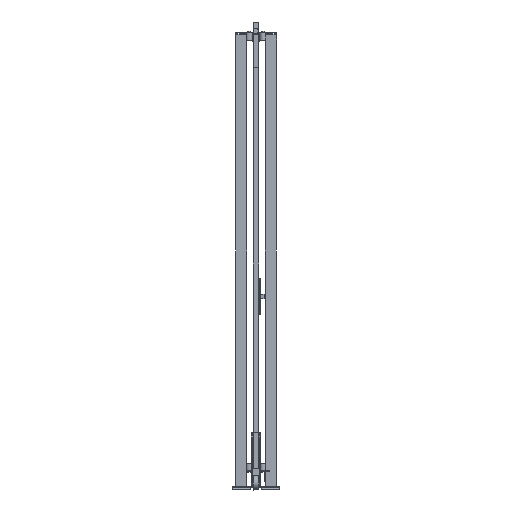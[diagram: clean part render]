
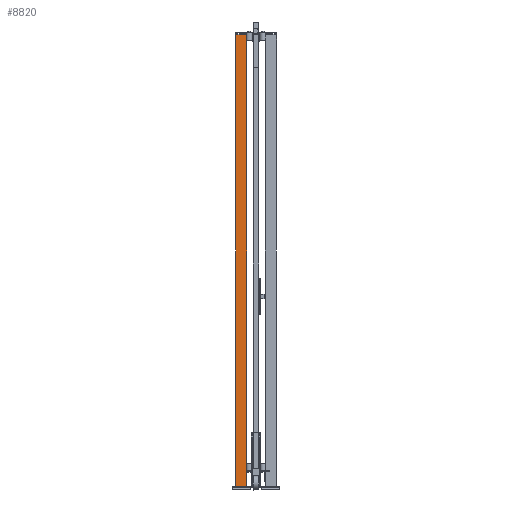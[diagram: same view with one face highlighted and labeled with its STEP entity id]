
A CAD part, left-side view. The second image highlights one B-rep face of the part: STEP entity #8820.
In plain terms, the highlighted planar face has unit normal (-1, 0, 0) as drawn and (0, 1, 0) by its records, which use the part's own axes.
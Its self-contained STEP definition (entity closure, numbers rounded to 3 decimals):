
#852=FACE_OUTER_BOUND('',#1512,.T.);
#1512=EDGE_LOOP('',(#5290,#5291,#5292,#5293));
#2239=VERTEX_POINT('',#17921);
#2240=VERTEX_POINT('',#17923);
#2242=VERTEX_POINT('',#17929);
#2245=VERTEX_POINT('',#17934);
#3475=EDGE_CURVE('',#2239,#2240,#10149,.T.);
#3481=EDGE_CURVE('',#2245,#2242,#10155,.T.);
#3484=EDGE_CURVE('',#2240,#2245,#10158,.T.);
#3485=EDGE_CURVE('',#2239,#2242,#10159,.T.);
#5290=ORIENTED_EDGE('',*,*,#3485,.T.);
#5291=ORIENTED_EDGE('',*,*,#3481,.F.);
#5292=ORIENTED_EDGE('',*,*,#3484,.F.);
#5293=ORIENTED_EDGE('',*,*,#3475,.F.);
#8228=PLANE('',#13056);
#8820=ADVANCED_FACE('',(#852),#8228,.F.);
#10149=LINE('',#17924,#11677);
#10155=LINE('',#17936,#11683);
#10158=LINE('',#17941,#11686);
#10159=LINE('',#17943,#11687);
#11677=VECTOR('',#14274,1.);
#11683=VECTOR('',#14282,1.);
#11686=VECTOR('',#14289,1.);
#11687=VECTOR('',#14292,1.);
#13056=AXIS2_PLACEMENT_3D('',#17942,#14290,#14291);
#14274=DIRECTION('',(-1.,0.,0.));
#14282=DIRECTION('',(1.,0.,0.));
#14289=DIRECTION('',(0.,0.,-1.));
#14290=DIRECTION('center_axis',(0.,-1.,0.));
#14291=DIRECTION('ref_axis',(0.,0.,-1.));
#14292=DIRECTION('',(0.,0.,-1.));
#17921=CARTESIAN_POINT('',(30.,30.,2520.));
#17923=CARTESIAN_POINT('',(-30.,30.,2520.));
#17924=CARTESIAN_POINT('',(0.,30.,2520.));
#17929=CARTESIAN_POINT('',(30.,30.,20.));
#17934=CARTESIAN_POINT('',(-30.,30.,20.));
#17936=CARTESIAN_POINT('',(0.,30.,20.));
#17941=CARTESIAN_POINT('',(-30.,30.,1270.));
#17942=CARTESIAN_POINT('Origin',(0.,30.,
1270.));
#17943=CARTESIAN_POINT('',(30.,30.,1270.));
